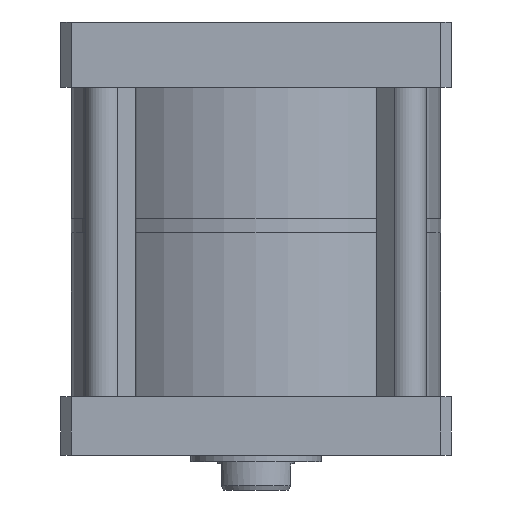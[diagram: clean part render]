
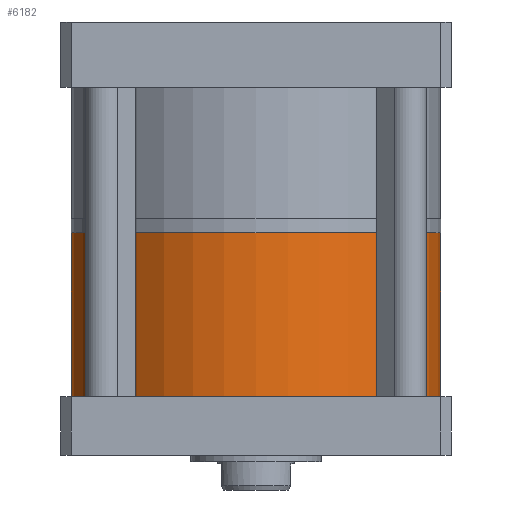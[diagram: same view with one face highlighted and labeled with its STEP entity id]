
A CAD part, front view. The second image highlights one B-rep face of the part: STEP entity #6182.
In plain terms, the highlighted cylindrical face has radius 85 mm (diameter 170 mm), a partial arc.
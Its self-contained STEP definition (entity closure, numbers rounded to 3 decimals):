
#567 = AXIS2_PLACEMENT_3D ( 'NONE', #1857, #2559, #6046 ) ;
#906 = ORIENTED_EDGE ( 'NONE', *, *, #4966, .T. ) ;
#998 = DIRECTION ( 'NONE',  ( 0., 0., -1. ) ) ;
#1414 = ORIENTED_EDGE ( 'NONE', *, *, #4921, .F. ) ;
#1477 = CARTESIAN_POINT ( 'NONE',  ( -85., 0., -142.5 ) ) ;
#1857 = CARTESIAN_POINT ( 'NONE',  ( 0., 0., -142.5 ) ) ;
#1859 = FACE_OUTER_BOUND ( 'NONE', #2652, .T. ) ;
#2122 = CARTESIAN_POINT ( 'NONE',  ( -85., 0., -142.5 ) ) ;
#2135 = EDGE_CURVE ( 'NONE', #4355, #4146, #2898, .T. ) ;
#2559 = DIRECTION ( 'NONE',  ( 0., 0., 1. ) ) ;
#2652 = EDGE_LOOP ( 'NONE', ( #1414, #8600, #906, #5063 ) ) ;
#2865 = VECTOR ( 'NONE', #6449, 1000. ) ;
#2898 = CIRCLE ( 'NONE', #3810, 85. ) ;
#3292 = LINE ( 'NONE', #1477, #5179 ) ;
#3361 = DIRECTION ( 'NONE',  ( 0., 0., -1. ) ) ;
#3810 = AXIS2_PLACEMENT_3D ( 'NONE', #7517, #3361, #8184 ) ;
#4146 = VERTEX_POINT ( 'NONE', #6760 ) ;
#4240 = CARTESIAN_POINT ( 'NONE',  ( 85., 0., -67. ) ) ;
#4355 = VERTEX_POINT ( 'NONE', #4240 ) ;
#4541 = LINE ( 'NONE', #8461, #2865 ) ;
#4575 = EDGE_CURVE ( 'NONE', #4938, #5732, #6213, .T. ) ;
#4921 = EDGE_CURVE ( 'NONE', #5732, #4146, #3292, .T. ) ;
#4938 = VERTEX_POINT ( 'NONE', #6418 ) ;
#4966 = EDGE_CURVE ( 'NONE', #4938, #4355, #4541, .T. ) ;
#5063 = ORIENTED_EDGE ( 'NONE', *, *, #2135, .T. ) ;
#5179 = VECTOR ( 'NONE', #6389, 1000. ) ;
#5189 = CARTESIAN_POINT ( 'NONE',  ( 0., 0., -142.5 ) ) ;
#5732 = VERTEX_POINT ( 'NONE', #2122 ) ;
#5881 = DIRECTION ( 'NONE',  ( -1., 0., 0. ) ) ;
#6046 = DIRECTION ( 'NONE',  ( 1., 0., 0. ) ) ;
#6182 = ADVANCED_FACE ( 'NONE', ( #1859 ), #7192, .T. ) ;
#6213 = CIRCLE ( 'NONE', #7141, 85. ) ;
#6389 = DIRECTION ( 'NONE',  ( 0., 0., 1. ) ) ;
#6418 = CARTESIAN_POINT ( 'NONE',  ( 85., 0., -142.5 ) ) ;
#6449 = DIRECTION ( 'NONE',  ( 0., 0., 1. ) ) ;
#6760 = CARTESIAN_POINT ( 'NONE',  ( -85., 0., -67. ) ) ;
#7141 = AXIS2_PLACEMENT_3D ( 'NONE', #5189, #998, #5881 ) ;
#7192 = CYLINDRICAL_SURFACE ( 'NONE', #567, 85. ) ;
#7517 = CARTESIAN_POINT ( 'NONE',  ( 0., 0., -67. ) ) ;
#8184 = DIRECTION ( 'NONE',  ( -1., 0., 0. ) ) ;
#8461 = CARTESIAN_POINT ( 'NONE',  ( 85., 0., -142.5 ) ) ;
#8600 = ORIENTED_EDGE ( 'NONE', *, *, #4575, .F. ) ;
